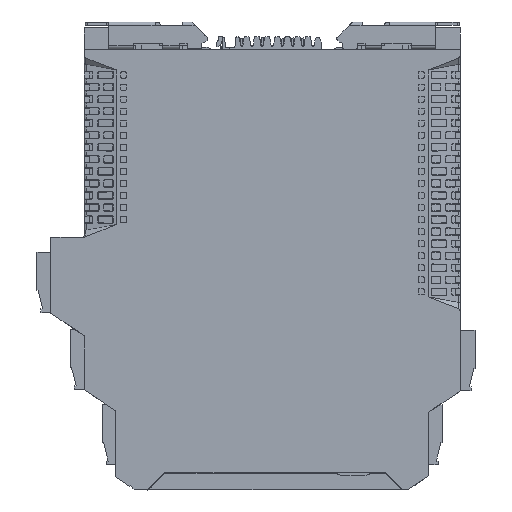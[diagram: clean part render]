
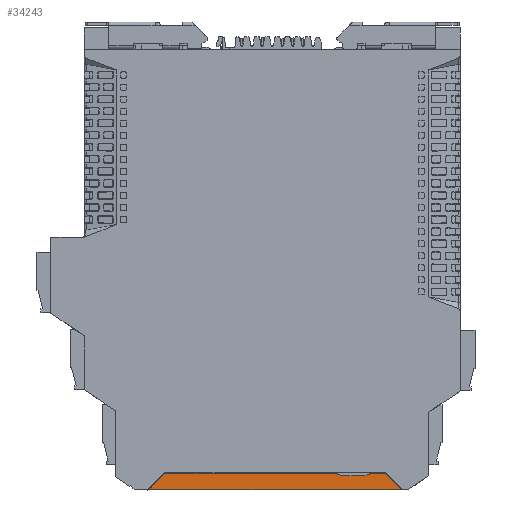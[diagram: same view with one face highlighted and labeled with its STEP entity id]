
A CAD part, front view. The second image highlights one B-rep face of the part: STEP entity #34243.
In plain terms, the highlighted planar face has unit normal (0, -1, -0.009).
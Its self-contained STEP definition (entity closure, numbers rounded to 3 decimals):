
#28938=CARTESIAN_POINT('',(83.309,-0.16,-110.321));
#28939=VERTEX_POINT('',#28938);
#28946=CARTESIAN_POINT('',(87.08,-0.127,-114.092));
#28947=VERTEX_POINT('',#28946);
#28948=CARTESIAN_POINT('',(83.309,-0.16,-110.321));
#28949=DIRECTION('',(0.707,0.006,-0.707));
#28950=VECTOR('',#28949,5.333);
#28951=LINE('',#28948,#28950);
#28952=EDGE_CURVE('',#28939,#28947,#28951,.T.);
#28985=CARTESIAN_POINT('',(79.309,-0.16,-110.321));
#28986=VERTEX_POINT('',#28985);
#28993=CARTESIAN_POINT('',(79.309,-0.16,-110.321));
#28994=DIRECTION('',(1.0,0.0,0.0));
#28995=VECTOR('',#28994,4.);
#28996=LINE('',#28993,#28995);
#28997=EDGE_CURVE('',#28986,#28939,#28996,.T.);
#29009=CARTESIAN_POINT('',(71.309,-0.16,-110.321));
#29010=VERTEX_POINT('',#29009);
#29025=CARTESIAN_POINT('',(28.429,-0.16,-110.321));
#29026=VERTEX_POINT('',#29025);
#29033=CARTESIAN_POINT('',(28.429,-0.16,-110.321));
#29034=DIRECTION('',(1.0,0.0,0.0));
#29035=VECTOR('',#29034,42.88);
#29036=LINE('',#29033,#29035);
#29037=EDGE_CURVE('',#29026,#29010,#29036,.T.);
#29144=CARTESIAN_POINT('',(24.702,-0.127,-114.049));
#29145=VERTEX_POINT('',#29144);
#29152=CARTESIAN_POINT('',(24.702,-0.127,-114.049));
#29153=DIRECTION('',(0.707,-0.006,0.707));
#29154=VECTOR('',#29153,5.272);
#29155=LINE('',#29152,#29154);
#29156=EDGE_CURVE('',#29145,#29026,#29155,.T.);
#29190=CARTESIAN_POINT('',(24.644,-0.126,-114.176));
#29191=VERTEX_POINT('',#29190);
#29198=CARTESIAN_POINT('',(24.843,-0.126,-114.19));
#29199=DIRECTION('',(0.,1.,0.009));
#29200=DIRECTION('',(-0.707,-0.006,0.707));
#29201=AXIS2_PLACEMENT_3D('',#29198,#29199,#29200);
#29202=CIRCLE('',#29201,0.2);
#29203=EDGE_CURVE('',#29191,#29145,#29202,.T.);
#29222=CARTESIAN_POINT('',(24.619,-0.123,-114.521));
#29223=VERTEX_POINT('',#29222);
#29230=CARTESIAN_POINT('',(24.644,-0.126,-114.176));
#29231=DIRECTION('',(-0.07,0.009,-0.998));
#29232=VECTOR('',#29231,0.346);
#29233=LINE('',#29230,#29232);
#29234=EDGE_CURVE('',#29191,#29223,#29233,.T.);
#34020=CARTESIAN_POINT('',(87.08,-0.123,-114.521));
#34021=VERTEX_POINT('',#34020);
#34028=CARTESIAN_POINT('',(87.08,-0.123,-114.521));
#34029=DIRECTION('',(-1.0,0.0,0.0));
#34030=VECTOR('',#34029,62.46);
#34031=LINE('',#34028,#34030);
#34032=EDGE_CURVE('',#34021,#29223,#34031,.T.);
#34200=CARTESIAN_POINT('',(23.783,-0.16,-110.321));
#34201=DIRECTION('',(0.0,1.,0.009));
#34202=DIRECTION('',(0.0,-0.009,1.));
#34203=AXIS2_PLACEMENT_3D('',#34200,#34201,#34202);
#34204=PLANE('',#34203);
#34205=ORIENTED_EDGE('',*,*,#29234,.T.);
#34206=ORIENTED_EDGE('',*,*,#34032,.F.);
#34207=CARTESIAN_POINT('',(87.08,-0.127,-114.092));
#34208=DIRECTION('',(0.0,0.009,-1.));
#34209=VECTOR('',#34208,0.429);
#34210=LINE('',#34207,#34209);
#34211=EDGE_CURVE('',#28947,#34021,#34210,.T.);
#34212=ORIENTED_EDGE('',*,*,#34211,.F.);
#34213=ORIENTED_EDGE('',*,*,#28952,.F.);
#34214=ORIENTED_EDGE('',*,*,#28997,.F.);
#34215=CARTESIAN_POINT('',(79.309,-0.157,-110.721));
#34216=VERTEX_POINT('',#34215);
#34217=CARTESIAN_POINT('',(79.309,-0.157,-110.721));
#34218=DIRECTION('',(0.0,-0.009,1.));
#34219=VECTOR('',#34218,0.4);
#34220=LINE('',#34217,#34219);
#34221=EDGE_CURVE('',#34216,#28986,#34220,.T.);
#34222=ORIENTED_EDGE('',*,*,#34221,.F.);
#34223=CARTESIAN_POINT('',(71.309,-0.157,-110.721));
#34224=VERTEX_POINT('',#34223);
#34225=CARTESIAN_POINT('',(75.309,-0.388,-84.207));
#34226=DIRECTION('',(0.,-1.,-0.009));
#34227=DIRECTION('',(0.149,0.009,-0.989));
#34228=AXIS2_PLACEMENT_3D('',#34225,#34226,#34227);
#34229=CIRCLE('',#34228,26.816);
#34230=EDGE_CURVE('',#34224,#34216,#34229,.T.);
#34231=ORIENTED_EDGE('',*,*,#34230,.F.);
#34232=CARTESIAN_POINT('',(71.309,-0.16,-110.321));
#34233=DIRECTION('',(0.0,0.009,-1.));
#34234=VECTOR('',#34233,0.4);
#34235=LINE('',#34232,#34234);
#34236=EDGE_CURVE('',#29010,#34224,#34235,.T.);
#34237=ORIENTED_EDGE('',*,*,#34236,.F.);
#34238=ORIENTED_EDGE('',*,*,#29037,.F.);
#34239=ORIENTED_EDGE('',*,*,#29156,.F.);
#34240=ORIENTED_EDGE('',*,*,#29203,.F.);
#34241=EDGE_LOOP('',(#34205,#34206,#34212,#34213,#34214,#34222,#34231,#34237,#34238,#34239,#34240));
#34242=FACE_OUTER_BOUND('',#34241,.T.);
#34243=ADVANCED_FACE('',(#34242),#34204,.F.);
